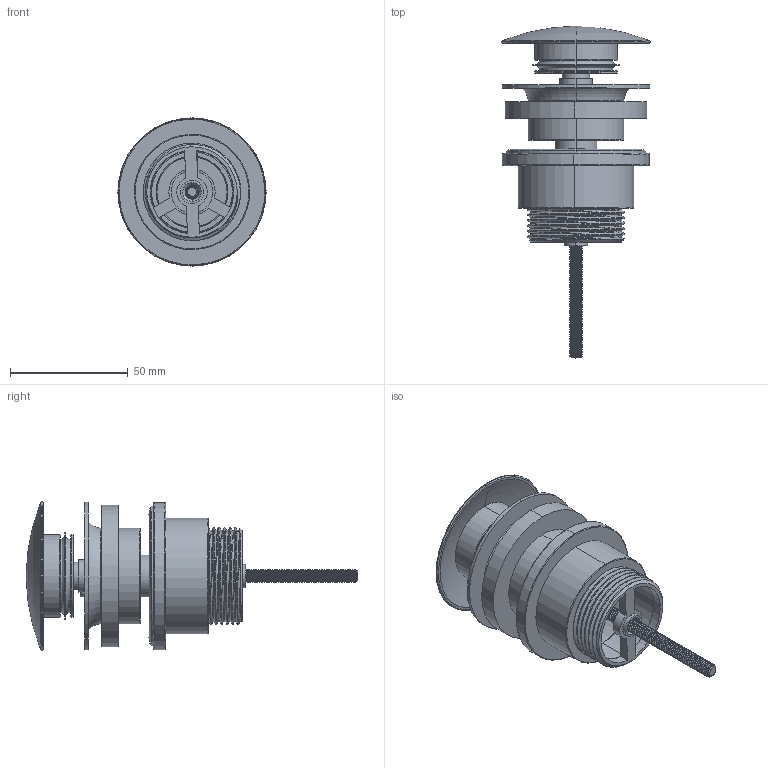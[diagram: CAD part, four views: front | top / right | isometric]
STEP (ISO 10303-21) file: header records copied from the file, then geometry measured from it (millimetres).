
FILE_DESCRIPTION (( 'STEP AP214' ), '1' );
FILE_NAME ('TSL.673.STEP', '2025-01-27T15:16:36', ( '' ), ( '' ), 'SwSTEP 2.0', 'SolidWorks 2022', '' );
FILE_SCHEMA (( 'AUTOMOTIVE_DESIGN' ));
Length unit declared in the file: millimetre
Products named in the file (1): TSL.673
Bounding box: 63 x 141.1 x 63 mm (x, y, z)
Volume: 56620.8 mm3; surface area: 56276.7 mm2
Topology: 8 solids, 9 shells, 532 faces, 1398 edges, 905 vertices
Faces by surface type: cylinder 320, plane 117, torus 36, cone 35, bspline 24
Entity records: 42952 total; most frequent: CARTESIAN_POINT 25125, ORIENTED_EDGE 2792, DIRECTION 2218, EDGE_CURVE 1396, VERTEX_POINT 905, AXIS2_PLACEMENT_3D 842, EDGE_LOOP 575, UNCERTAINTY_MEASURE_WITH_UNIT 542
